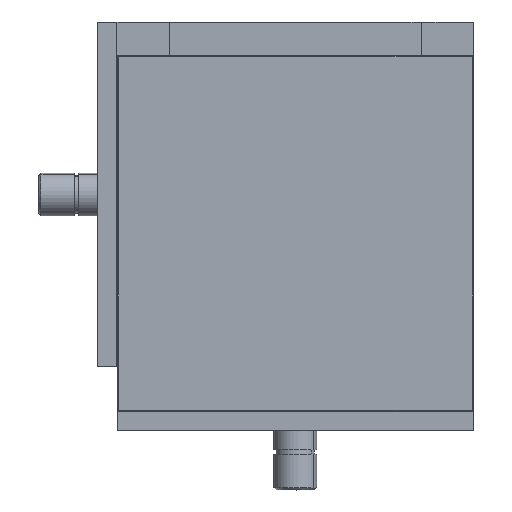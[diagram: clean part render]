
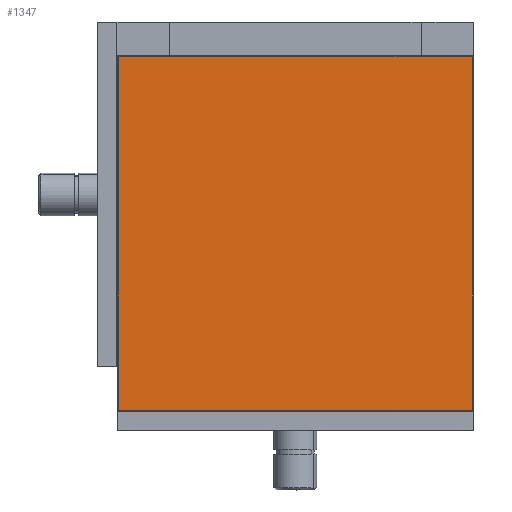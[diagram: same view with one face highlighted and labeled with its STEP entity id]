
A CAD part, top view. The second image highlights one B-rep face of the part: STEP entity #1347.
In plain terms, the highlighted planar face has unit normal (0, 0, 1).
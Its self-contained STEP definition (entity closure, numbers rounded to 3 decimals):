
#1347=ADVANCED_FACE('',(#2739),#2740,.F.);
#2739=FACE_OUTER_BOUND('',#4268,.T.);
#2740=PLANE('',#4269);
#4268=EDGE_LOOP('',(#7534,#7535,#7536,#7537));
#4269=AXIS2_PLACEMENT_3D('',#7538,#7539,#7540);
#7534=ORIENTED_EDGE('',*,*,#9505,.T.);
#7535=ORIENTED_EDGE('',*,*,#9506,.T.);
#7536=ORIENTED_EDGE('',*,*,#9507,.T.);
#7537=ORIENTED_EDGE('',*,*,#9503,.T.);
#7538=CARTESIAN_POINT('',(300.042,-322.,94.021));
#7539=DIRECTION('',(0.,0.,-1.0));
#7540=DIRECTION('',(0.0,-1.0,0.));
#9503=EDGE_CURVE('',#11474,#11478,#11480,.T.);
#9505=EDGE_CURVE('',#11478,#11482,#11483,.T.);
#9506=EDGE_CURVE('',#11482,#11484,#11485,.T.);
#9507=EDGE_CURVE('',#11484,#11474,#11486,.T.);
#11474=VERTEX_POINT('',#14621);
#11478=VERTEX_POINT('',#14627);
#11480=LINE('',#14630,#14631);
#11482=VERTEX_POINT('',#14633);
#11483=LINE('',#14634,#14635);
#11484=VERTEX_POINT('',#14636);
#11485=LINE('',#14637,#14638);
#11486=LINE('',#14639,#14640);
#14621=CARTESIAN_POINT('',(150.542,-172.5,94.021));
#14627=CARTESIAN_POINT('',(150.542,-321.5,94.021));
#14630=CARTESIAN_POINT('',(150.542,-322.0,94.021));
#14631=VECTOR('',#16597,1000.0);
#14633=CARTESIAN_POINT('',(299.542,-321.5,94.021));
#14634=CARTESIAN_POINT('',(300.042,-321.5,94.021));
#14635=VECTOR('',#16598,1000.0);
#14636=CARTESIAN_POINT('',(299.542,-172.5,94.021));
#14637=CARTESIAN_POINT('',(299.542,-322.,94.021));
#14638=VECTOR('',#16599,1000.0);
#14639=CARTESIAN_POINT('',(300.042,-172.5,94.021));
#14640=VECTOR('',#16600,1000.0);
#16597=DIRECTION('',(0.,-1.0,0.));
#16598=DIRECTION('',(1.0,0.,0.));
#16599=DIRECTION('',(0.,1.0,0.));
#16600=DIRECTION('',(-1.0,0.,0.));
